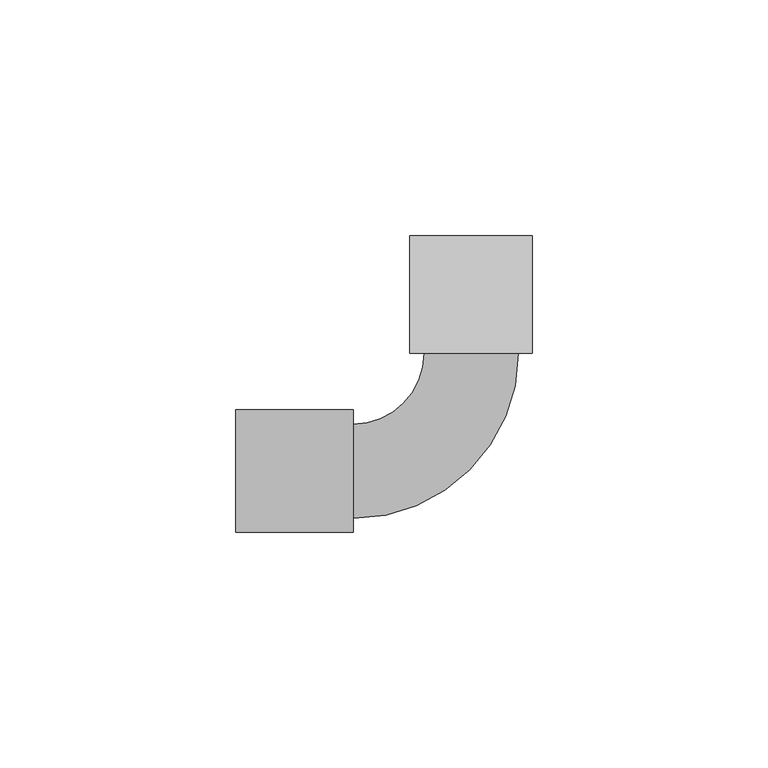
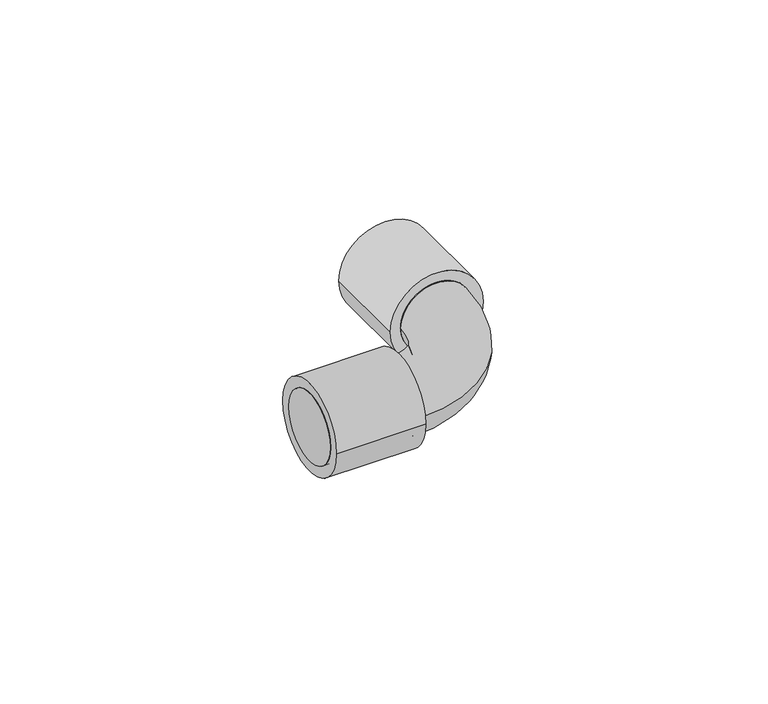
"""IFC4 building model written with IfcOpenShell, lengths in millimetres: cable carrier fitting geometry, Поворот на 90 труба-труба IP65 CS : Поворот на 90 труба-труба IP65 CS."""

from ifc_helpers import new_model, si_unit, point, frame, origin, origin_2d, place, context, project, spatial, circle_curve, ellipse_curve, trimmed, segment, composite_curve, outline, extrude, source, transform, mapped, element, save
from ifc_brep_helpers import plane_surface, cylinder_surface, revolved_surface, advanced_brep


def cable_carrier_fitting_b1a6df09(model_context):
    return source(origin(), model_context, "Body", "SolidModel", [
        advanced_brep(
        [(-50.0, -10.0, 0.0), (-50.0, 10.0, 0.0), (-25.0, -10.0, 0.0), (-25.0, 10.0, 0.0), (-10.0, 25.0, 0.0), (10.0, 25.0, 0.0), (10.0, 50.0, 0.0), (-10.0, 50.0, 0.0)],
        [
            (0, 1, circle_curve(frame((-50.0, 0.0, 0.0), z_axis=(-1.0, 0.0, 0.0), x_axis=(0.0, 1.0, 0.0)), 10.0)),
            (1, 0, circle_curve(frame((-50.0, 0.0, 0.0), z_axis=(-1.0, 0.0, 0.0), x_axis=(0.0, 1.0, 0.0)), 10.0)),
            (0, 2),
            (2, 3, circle_curve(frame((-25.0, 0.0, 0.0), z_axis=(-1.0, 0.0, 0.0), x_axis=(0.0, 1.0, 0.0)), 10.0)),
            (3, 1),
            (3, 2, circle_curve(frame((-25.0, 0.0, 0.0), z_axis=(-1.0, 0.0, 0.0), x_axis=(0.0, 1.0, 0.0)), 10.0)),
            (4, 3, circle_curve(frame((-25.0, 25.0, 0.0), z_axis=(0.0, 0.0, -1.0), x_axis=(0.0, -1.0, 0.0)), 15.0)),
            (2, 5, circle_curve(frame((-25.0, 25.0, 0.0), z_axis=(0.0, 0.0, 1.0), x_axis=(0.0, -1.0, 0.0)), 35.0)),
            (5, 4, circle_curve(frame((0.0, 25.0, 0.0), z_axis=(0.0, -1.0, 0.0), x_axis=(-1.0, 0.0, 0.0)), 10.0)),
            (4, 5, circle_curve(frame((0.0, 25.0, 0.0), z_axis=(0.0, -1.0, 0.0), x_axis=(-1.0, 0.0, 0.0)), 10.0)),
            (6, 7, circle_curve(frame((0.0, 50.0, 0.0), z_axis=(0.0, 1.0, 0.0), x_axis=(-1.0, 0.0, 0.0)), 10.0)),
            (7, 6, circle_curve(frame((0.0, 50.0, 0.0), z_axis=(0.0, 1.0, 0.0), x_axis=(-1.0, 0.0, 0.0)), 10.0)),
            (5, 6),
            (7, 4),
        ],
        [
            plane_surface(frame((-50.0, 0.0, 0.0), z_axis=(-1.0, 0.0, 0.0), x_axis=(0.0, 0.0, 1.0))),
            cylinder_surface(frame((-50.0, 0.0, 0.0), z_axis=(-1.0, 0.0, 0.0), x_axis=(0.0, 1.0, 0.0)), 10.0),
            revolved_surface(trimmed(ellipse_curve(frame((-25.0, 0.0, 0.0), z_axis=(-1.0, 0.0, 0.0), x_axis=(0.0, 1.0, 0.0)), 10.0, 10.0), [point((-25.0, -10.0, 0.0))], [point((-25.0, 10.0, 0.0))], True, "CARTESIAN"), (-25.0, 25.0, 0.0), (0.0, 0.0, 1.0)),
            revolved_surface(trimmed(ellipse_curve(frame((-25.0, 0.0, 0.0), z_axis=(-1.0, 0.0, 0.0), x_axis=(0.0, 1.0, 0.0)), 10.0, 10.0), [point((-25.0, 10.0, 0.0))], [point((-25.0, -10.0, 0.0))], True, "CARTESIAN"), (-25.0, 25.0, 0.0), (0.0, 0.0, 1.0)),
            plane_surface(frame((0.0, 50.0, 0.0), z_axis=(0.0, 1.0, 0.0), x_axis=(0.0, 0.0, 1.0))),
            cylinder_surface(frame((0.0, 25.0, 0.0), z_axis=(0.0, -1.0, 0.0), x_axis=(-1.0, 0.0, 0.0)), 10.0),
        ],
        [
            (0, [[1, 2]]),
            (1, [[-1, 3, 4, 5]]),
            (1, [[-2, -5, 6, -3]]),
            (2, [[7, -4, 8, 9]]),
            (3, [[-8, -6, -7, 10]]),
            (4, [[11, 12]]),
            (5, [[-9, 13, -12, 14]]),
            (5, [[-10, -14, -11, -13]]),
        ],
    ),
        extrude(outline(composite_curve([segment(trimmed(circle_curve(origin_2d(), 13.0), [point((-13.0, 0.0))], [point((13.0, 0.0))], False, "CARTESIAN"), True, "CONTINUOUS"), segment(trimmed(circle_curve(origin_2d(), 13.0), [point((13.0, 0.0))], [point((-13.0, 0.0))], False, "CARTESIAN"), True, "CONTINUOUS")], self_intersect=False)), frame((-50.0, 0.0, 0.0), z_axis=(1.0, 0.0, 0.0), x_axis=(0.0, 1.0, 0.0)), (0.0, 0.0, 1.0), 25.0),
        extrude(outline(composite_curve([segment(trimmed(circle_curve(origin_2d(), 13.0), [point((0.0, 13.0))], [point((0.0, -13.0))], False, "CARTESIAN"), True, "CONTINUOUS"), segment(trimmed(circle_curve(origin_2d(), 13.0), [point((0.0, -13.0))], [point((0.0, 13.0))], False, "CARTESIAN"), True, "CONTINUOUS")], self_intersect=False)), frame((0.0, 25.0, 0.0), z_axis=(0.0, 1.0, 0.0), x_axis=(0.0, 0.0, 1.0)), (0.0, 0.0, 1.0), 25.0),
    ])


if __name__ == "__main__":
    model = new_model("IFC4")
    model_context = context("Model", 3, world=origin())
    ifc_project = project(units=[si_unit("LENGTHUNIT", "METRE", prefix="MILLI")], contexts=[model_context])
    site = spatial("IfcSite", under=ifc_project)
    building = spatial("IfcBuilding", under=site)
    placement = place(None, origin())
    cable_carrier_fitting_shape = cable_carrier_fitting_b1a6df09(model_context)
    element("IfcCableCarrierFitting", 1, ObjectType="Поворот на 90 труба-труба IP65 CS : Поворот на 90 труба-труба IP65 CS", at=placement, inside=building, context=model_context, shape_type="MappedRepresentation", body=[
        mapped(cable_carrier_fitting_shape, transform((0.0, 0.0, 0.0), x_axis=(1.0, 0.0, 0.0), y_axis=(0.0, 1.0, 0.0), z_axis=(0.0, 0.0, 1.0))),
    ])
    save(model, "model.ifc")
